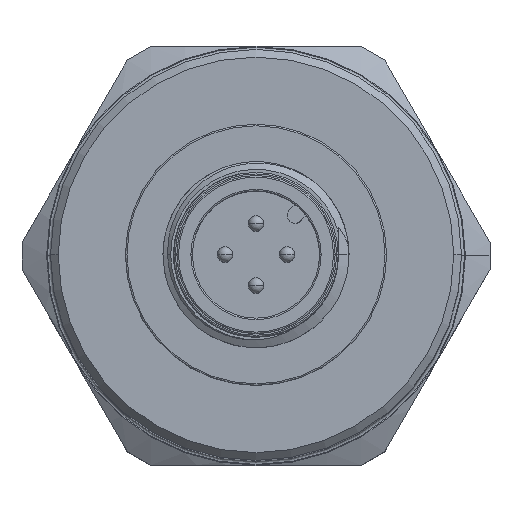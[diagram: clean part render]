
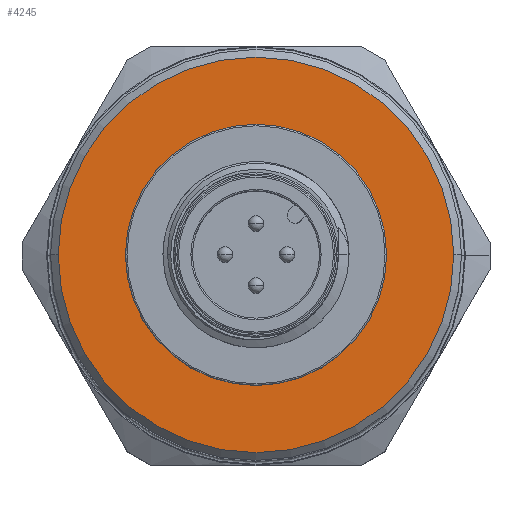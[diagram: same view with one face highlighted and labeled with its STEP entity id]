
A CAD part, top view. The second image highlights one B-rep face of the part: STEP entity #4245.
In plain terms, the highlighted planar face has unit normal (0, 0, 1).
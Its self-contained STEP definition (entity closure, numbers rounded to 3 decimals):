
#153 = EDGE_CURVE ( 'NONE', #6518, #1787, #5415, .T. ) ;
#156 = DIRECTION ( 'NONE',  ( 1., 0., 0. ) ) ;
#227 = CARTESIAN_POINT ( 'NONE',  ( 0., 0., 45. ) ) ;
#450 = CARTESIAN_POINT ( 'NONE',  ( 0., 0., 45. ) ) ;
#836 = AXIS2_PLACEMENT_3D ( 'NONE', #3727, #4655, #2611 ) ;
#890 = CIRCLE ( 'NONE', #3051, 12.75 ) ;
#1213 = AXIS2_PLACEMENT_3D ( 'NONE', #450, #6935, #5929 ) ;
#1306 = CARTESIAN_POINT ( 'NONE',  ( 0., 0., 45. ) ) ;
#1787 = VERTEX_POINT ( 'NONE', #2805 ) ;
#1864 = DIRECTION ( 'NONE',  ( 0., 0., 1. ) ) ;
#1917 = AXIS2_PLACEMENT_3D ( 'NONE', #227, #6203, #156 ) ;
#2142 = AXIS2_PLACEMENT_3D ( 'NONE', #5175, #5140, #4613 ) ;
#2373 = CIRCLE ( 'NONE', #2142, 12.75 ) ;
#2576 = FACE_BOUND ( 'NONE', #5753, .T. ) ;
#2611 = DIRECTION ( 'NONE',  ( 1., 0., 0. ) ) ;
#2805 = CARTESIAN_POINT ( 'NONE',  ( -8.42, 0., 45. ) ) ;
#2993 = VERTEX_POINT ( 'NONE', #3745 ) ;
#3051 = AXIS2_PLACEMENT_3D ( 'NONE', #1306, #1864, #4044 ) ;
#3631 = CIRCLE ( 'NONE', #1917, 8.42 ) ;
#3727 = CARTESIAN_POINT ( 'NONE',  ( 0., 0., 45. ) ) ;
#3745 = CARTESIAN_POINT ( 'NONE',  ( -12.75, 0., 45. ) ) ;
#4044 = DIRECTION ( 'NONE',  ( 1., 0., 0. ) ) ;
#4191 = VERTEX_POINT ( 'NONE', #6275 ) ;
#4245 = ADVANCED_FACE ( 'NONE', ( #2576, #4755 ), #5834, .T. ) ;
#4613 = DIRECTION ( 'NONE',  ( 1., 0., 0. ) ) ;
#4655 = DIRECTION ( 'NONE',  ( 0., 0., 1. ) ) ;
#4755 = FACE_OUTER_BOUND ( 'NONE', #6658, .T. ) ;
#4833 = ORIENTED_EDGE ( 'NONE', *, *, #5074, .F. ) ;
#4964 = CARTESIAN_POINT ( 'NONE',  ( 8.42, 0., 45. ) ) ;
#5074 = EDGE_CURVE ( 'NONE', #1787, #6518, #3631, .T. ) ;
#5140 = DIRECTION ( 'NONE',  ( 0., 0., 1. ) ) ;
#5175 = CARTESIAN_POINT ( 'NONE',  ( 0., 0., 45. ) ) ;
#5415 = CIRCLE ( 'NONE', #1213, 8.42 ) ;
#5505 = ORIENTED_EDGE ( 'NONE', *, *, #5560, .T. ) ;
#5560 = EDGE_CURVE ( 'NONE', #4191, #2993, #890, .T. ) ;
#5607 = EDGE_CURVE ( 'NONE', #2993, #4191, #2373, .T. ) ;
#5753 = EDGE_LOOP ( 'NONE', ( #4833, #5815 ) ) ;
#5815 = ORIENTED_EDGE ( 'NONE', *, *, #153, .F. ) ;
#5834 = PLANE ( 'NONE',  #836 ) ;
#5929 = DIRECTION ( 'NONE',  ( 1., 0., 0. ) ) ;
#6037 = ORIENTED_EDGE ( 'NONE', *, *, #5607, .T. ) ;
#6203 = DIRECTION ( 'NONE',  ( 0., 0., 1. ) ) ;
#6275 = CARTESIAN_POINT ( 'NONE',  ( 12.75, 0., 45. ) ) ;
#6518 = VERTEX_POINT ( 'NONE', #4964 ) ;
#6658 = EDGE_LOOP ( 'NONE', ( #6037, #5505 ) ) ;
#6935 = DIRECTION ( 'NONE',  ( 0., 0., 1. ) ) ;
